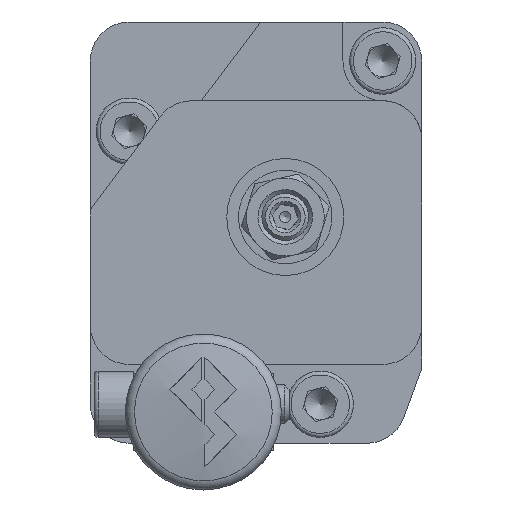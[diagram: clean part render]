
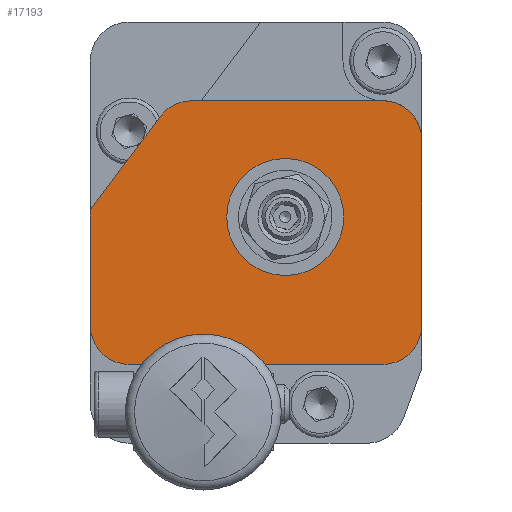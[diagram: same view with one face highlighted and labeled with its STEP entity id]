
A CAD part, left-side view. The second image highlights one B-rep face of the part: STEP entity #17193.
In plain terms, the highlighted planar face has unit normal (-1, 0, 0).
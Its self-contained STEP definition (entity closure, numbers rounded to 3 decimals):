
#34 = EDGE_LOOP ( 'NONE', ( #4799 ) ) ;
#161 = DIRECTION ( 'NONE',  ( -1., 0., 0. ) ) ;
#440 = FACE_OUTER_BOUND ( 'NONE', #4585, .T. ) ;
#531 = LINE ( 'NONE', #6016, #13091 ) ;
#603 = CARTESIAN_POINT ( 'NONE',  ( 0., -42.5, -15.1 ) ) ;
#650 = ORIENTED_EDGE ( 'NONE', *, *, #8080, .F. ) ;
#1416 = AXIS2_PLACEMENT_3D ( 'NONE', #15815, #3638, #3380 ) ;
#1543 = VECTOR ( 'NONE', #14222, 1000. ) ;
#2268 = VERTEX_POINT ( 'NONE', #603 ) ;
#2385 = AXIS2_PLACEMENT_3D ( 'NONE', #11350, #8766, #15615 ) ;
#2555 = CARTESIAN_POINT ( 'NONE',  ( 0., -5., -38.9 ) ) ;
#2738 = VERTEX_POINT ( 'NONE', #3425 ) ;
#2795 = AXIS2_PLACEMENT_3D ( 'NONE', #3002, #161, #16571 ) ;
#2879 = VERTEX_POINT ( 'NONE', #12556 ) ;
#3002 = CARTESIAN_POINT ( 'NONE',  ( 0., -13., -15.1 ) ) ;
#3362 = FACE_BOUND ( 'NONE', #34, .T. ) ;
#3380 = DIRECTION ( 'NONE',  ( 0., -1., 0. ) ) ;
#3418 = EDGE_CURVE ( 'NONE', #2879, #2738, #14441, .T. ) ;
#3425 = CARTESIAN_POINT ( 'NONE',  ( 0., -42.5, -38.9 ) ) ;
#3491 = VECTOR ( 'NONE', #5682, 1000. ) ;
#3638 = DIRECTION ( 'NONE',  ( -1., 0., 0. ) ) ;
#3756 = VERTEX_POINT ( 'NONE', #12865 ) ;
#4177 = VECTOR ( 'NONE', #9317, 1000. ) ;
#4585 = EDGE_LOOP ( 'NONE', ( #5152, #9909, #13224, #5262, #5052, #650, #8167, #15504, #10863 ) ) ;
#4799 = ORIENTED_EDGE ( 'NONE', *, *, #6309, .F. ) ;
#4834 = AXIS2_PLACEMENT_3D ( 'NONE', #2555, #13281, #5093 ) ;
#4876 = EDGE_CURVE ( 'NONE', #2268, #16790, #10795, .T. ) ;
#4900 = CARTESIAN_POINT ( 'NONE',  ( 0., -37.5, -15.1 ) ) ;
#5052 = ORIENTED_EDGE ( 'NONE', *, *, #12882, .T. ) ;
#5093 = DIRECTION ( 'NONE',  ( 0., -1., 0. ) ) ;
#5131 = VERTEX_POINT ( 'NONE', #10291 ) ;
#5152 = ORIENTED_EDGE ( 'NONE', *, *, #14721, .F. ) ;
#5226 = AXIS2_PLACEMENT_3D ( 'NONE', #14863, #8187, #6770 ) ;
#5236 = LINE ( 'NONE', #10666, #4177 ) ;
#5262 = ORIENTED_EDGE ( 'NONE', *, *, #14609, .F. ) ;
#5489 = CARTESIAN_POINT ( 'NONE',  ( 0., 0., -38.9 ) ) ;
#5682 = DIRECTION ( 'NONE',  ( 0., 0., 1. ) ) ;
#5784 = EDGE_CURVE ( 'NONE', #2738, #2268, #531, .T. ) ;
#5955 = CARTESIAN_POINT ( 'NONE',  ( 0., 0., -24.1 ) ) ;
#6016 = CARTESIAN_POINT ( 'NONE',  ( 0., -42.5, -54. ) ) ;
#6018 = CARTESIAN_POINT ( 'NONE',  ( 0., 0., -10.1 ) ) ;
#6309 = EDGE_CURVE ( 'NONE', #14342, #14342, #11461, .T. ) ;
#6314 = VECTOR ( 'NONE', #15466, 1000. ) ;
#6499 = VERTEX_POINT ( 'NONE', #5955 ) ;
#6770 = DIRECTION ( 'NONE',  ( 0., 0., 1. ) ) ;
#7342 = PLANE ( 'NONE',  #2385 ) ;
#7661 = DIRECTION ( 'NONE',  ( -1., 0., 0. ) ) ;
#7965 = CIRCLE ( 'NONE', #4834, 5. ) ;
#8080 = EDGE_CURVE ( 'NONE', #2879, #5131, #5236, .T. ) ;
#8167 = ORIENTED_EDGE ( 'NONE', *, *, #3418, .T. ) ;
#8187 = DIRECTION ( 'NONE',  ( -1., 0., 0. ) ) ;
#8473 = EDGE_CURVE ( 'NONE', #12593, #3756, #14670, .T. ) ;
#8679 = DIRECTION ( 'NONE',  ( 0., 0., 1. ) ) ;
#8766 = DIRECTION ( 'NONE',  ( -1., 0., 0. ) ) ;
#8999 = CARTESIAN_POINT ( 'NONE',  ( 0., -25., -17.5 ) ) ;
#9317 = DIRECTION ( 'NONE',  ( 0., 1., 0. ) ) ;
#9384 = CARTESIAN_POINT ( 'NONE',  ( 0., -13., -10.1 ) ) ;
#9637 = VERTEX_POINT ( 'NONE', #5489 ) ;
#9673 = CARTESIAN_POINT ( 'NONE',  ( 0., 0., -54. ) ) ;
#9909 = ORIENTED_EDGE ( 'NONE', *, *, #8473, .T. ) ;
#9967 = CARTESIAN_POINT ( 'NONE',  ( 0., 14.352, -43.236 ) ) ;
#10291 = CARTESIAN_POINT ( 'NONE',  ( 0., -5., -43.9 ) ) ;
#10514 = AXIS2_PLACEMENT_3D ( 'NONE', #4900, #7661, #14420 ) ;
#10666 = CARTESIAN_POINT ( 'NONE',  ( 0., 0., -43.9 ) ) ;
#10795 = CIRCLE ( 'NONE', #10514, 5. ) ;
#10863 = ORIENTED_EDGE ( 'NONE', *, *, #4876, .T. ) ;
#10939 = LINE ( 'NONE', #9673, #3491 ) ;
#11128 = CARTESIAN_POINT ( 'NONE',  ( 0., -37.5, -10.1 ) ) ;
#11350 = CARTESIAN_POINT ( 'NONE',  ( 0., 0., -54. ) ) ;
#11461 = CIRCLE ( 'NONE', #5226, 7.5 ) ;
#11525 = LINE ( 'NONE', #6018, #6314 ) ;
#12556 = CARTESIAN_POINT ( 'NONE',  ( 0., -37.5, -43.9 ) ) ;
#12593 = VERTEX_POINT ( 'NONE', #9384 ) ;
#12640 = LINE ( 'NONE', #9967, #1543 ) ;
#12865 = CARTESIAN_POINT ( 'NONE',  ( 0., -9., -12.1 ) ) ;
#12882 = EDGE_CURVE ( 'NONE', #9637, #5131, #7965, .T. ) ;
#13091 = VECTOR ( 'NONE', #8679, 1000. ) ;
#13224 = ORIENTED_EDGE ( 'NONE', *, *, #16867, .T. ) ;
#13281 = DIRECTION ( 'NONE',  ( -1., 0., 0. ) ) ;
#14222 = DIRECTION ( 'NONE',  ( 0., 0.6, -0.8 ) ) ;
#14342 = VERTEX_POINT ( 'NONE', #8999 ) ;
#14420 = DIRECTION ( 'NONE',  ( 0., -1., 0. ) ) ;
#14441 = CIRCLE ( 'NONE', #1416, 5. ) ;
#14609 = EDGE_CURVE ( 'NONE', #9637, #6499, #10939, .T. ) ;
#14670 = CIRCLE ( 'NONE', #2795, 5. ) ;
#14721 = EDGE_CURVE ( 'NONE', #12593, #16790, #11525, .T. ) ;
#14863 = CARTESIAN_POINT ( 'NONE',  ( 0., -25., -25. ) ) ;
#15466 = DIRECTION ( 'NONE',  ( 0., -1., 0. ) ) ;
#15504 = ORIENTED_EDGE ( 'NONE', *, *, #5784, .T. ) ;
#15615 = DIRECTION ( 'NONE',  ( 0., -1., 0. ) ) ;
#15815 = CARTESIAN_POINT ( 'NONE',  ( 0., -37.5, -38.9 ) ) ;
#16571 = DIRECTION ( 'NONE',  ( 0., -1., 0. ) ) ;
#16790 = VERTEX_POINT ( 'NONE', #11128 ) ;
#16867 = EDGE_CURVE ( 'NONE', #3756, #6499, #12640, .T. ) ;
#17193 = ADVANCED_FACE ( 'NONE', ( #3362, #440 ), #7342, .T. ) ;
